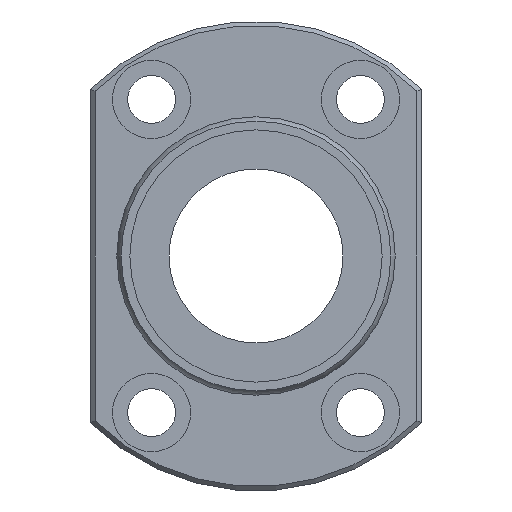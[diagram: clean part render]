
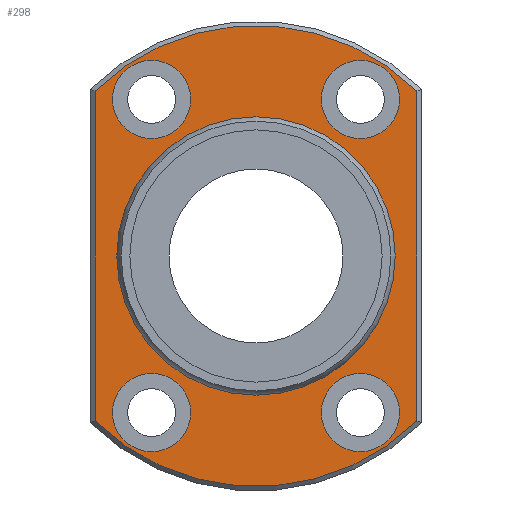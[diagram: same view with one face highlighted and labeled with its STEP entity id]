
A CAD part, left-side view. The second image highlights one B-rep face of the part: STEP entity #298.
In plain terms, the highlighted planar face has unit normal (-1, 0, 0).
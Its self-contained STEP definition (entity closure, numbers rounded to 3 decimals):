
#59=CARTESIAN_POINT('',(41.5,-18.5,18.974));
#60=VERTEX_POINT('',#59);
#68=CARTESIAN_POINT('',(41.5,-18.5,-18.974));
#69=VERTEX_POINT('',#68);
#70=CARTESIAN_POINT('',(41.5,-18.5,18.974));
#71=DIRECTION('',(0.0,0.0,-1.0));
#72=VECTOR('',#71,37.947);
#73=LINE('',#70,#72);
#74=EDGE_CURVE('',#60,#69,#73,.T.);
#101=CARTESIAN_POINT('',(41.5,18.5,-18.974));
#102=VERTEX_POINT('',#101);
#103=CARTESIAN_POINT('',(41.5,0.0,0.0));
#104=DIRECTION('',(1.0,0.0,0.0));
#105=DIRECTION('',(0.0,0.0,-1.0));
#106=AXIS2_PLACEMENT_3D('',#103,#104,#105);
#107=CIRCLE('',#106,26.5);
#108=EDGE_CURVE('',#69,#102,#107,.T.);
#134=CARTESIAN_POINT('',(41.5,18.5,18.974));
#135=VERTEX_POINT('',#134);
#136=CARTESIAN_POINT('',(41.5,18.5,-18.974));
#137=DIRECTION('',(0.0,0.0,1.0));
#138=VECTOR('',#137,37.947);
#139=LINE('',#136,#138);
#140=EDGE_CURVE('',#102,#135,#139,.T.);
#165=CARTESIAN_POINT('',(41.5,0.0,0.0));
#166=DIRECTION('',(1.0,0.0,0.0));
#167=DIRECTION('',(0.0,0.0,1.0));
#168=AXIS2_PLACEMENT_3D('',#165,#166,#167);
#169=CIRCLE('',#168,26.5);
#170=EDGE_CURVE('',#135,#60,#169,.T.);
#232=CARTESIAN_POINT('',(41.5,0.0,21.387));
#233=DIRECTION('',(-1.0,0.0,0.0));
#234=DIRECTION('',(0.0,0.0,1.0));
#235=AXIS2_PLACEMENT_3D('',#232,#233,#234);
#236=PLANE('',#235);
#237=ORIENTED_EDGE('',*,*,#74,.F.);
#238=ORIENTED_EDGE('',*,*,#170,.F.);
#239=ORIENTED_EDGE('',*,*,#140,.F.);
#240=ORIENTED_EDGE('',*,*,#108,.F.);
#241=EDGE_LOOP('',(#237,#238,#239,#240));
#242=FACE_OUTER_BOUND('',#241,.T.);
#243=CARTESIAN_POINT('',(41.5,0.0,15.773));
#244=VERTEX_POINT('',#243);
#245=CARTESIAN_POINT('',(41.5,0.0,0.0));
#246=DIRECTION('',(-1.0,0.0,0.0));
#247=DIRECTION('',(0.0,0.0,1.0));
#248=AXIS2_PLACEMENT_3D('',#245,#246,#247);
#249=CIRCLE('',#248,15.773);
#250=EDGE_CURVE('',#244,#244,#249,.T.);
#251=ORIENTED_EDGE('',*,*,#250,.F.);
#252=EDGE_LOOP('',(#251));
#253=FACE_BOUND('',#252,.T.);
#254=CARTESIAN_POINT('',(41.5,-7.5,-18.0));
#255=VERTEX_POINT('',#254);
#256=CARTESIAN_POINT('',(41.5,-12.,-18.0));
#257=DIRECTION('',(1.0,0.0,0.0));
#258=DIRECTION('',(0.0,1.0,0.0));
#259=AXIS2_PLACEMENT_3D('',#256,#257,#258);
#260=CIRCLE('',#259,4.5);
#261=EDGE_CURVE('',#255,#255,#260,.T.);
#262=ORIENTED_EDGE('',*,*,#261,.T.);
#263=EDGE_LOOP('',(#262));
#264=FACE_BOUND('',#263,.T.);
#265=CARTESIAN_POINT('',(41.5,-7.5,18.0));
#266=VERTEX_POINT('',#265);
#267=CARTESIAN_POINT('',(41.5,-12.,18.0));
#268=DIRECTION('',(1.0,0.0,0.0));
#269=DIRECTION('',(0.0,1.0,0.0));
#270=AXIS2_PLACEMENT_3D('',#267,#268,#269);
#271=CIRCLE('',#270,4.5);
#272=EDGE_CURVE('',#266,#266,#271,.T.);
#273=ORIENTED_EDGE('',*,*,#272,.T.);
#274=EDGE_LOOP('',(#273));
#275=FACE_BOUND('',#274,.T.);
#276=CARTESIAN_POINT('',(41.5,16.5,-18.0));
#277=VERTEX_POINT('',#276);
#278=CARTESIAN_POINT('',(41.5,12.,-18.0));
#279=DIRECTION('',(1.0,0.0,0.0));
#280=DIRECTION('',(0.0,1.0,0.0));
#281=AXIS2_PLACEMENT_3D('',#278,#279,#280);
#282=CIRCLE('',#281,4.5);
#283=EDGE_CURVE('',#277,#277,#282,.T.);
#284=ORIENTED_EDGE('',*,*,#283,.T.);
#285=EDGE_LOOP('',(#284));
#286=FACE_BOUND('',#285,.T.);
#287=CARTESIAN_POINT('',(41.5,16.5,18.0));
#288=VERTEX_POINT('',#287);
#289=CARTESIAN_POINT('',(41.5,12.,18.0));
#290=DIRECTION('',(1.0,0.0,0.0));
#291=DIRECTION('',(0.0,1.0,0.0));
#292=AXIS2_PLACEMENT_3D('',#289,#290,#291);
#293=CIRCLE('',#292,4.5);
#294=EDGE_CURVE('',#288,#288,#293,.T.);
#295=ORIENTED_EDGE('',*,*,#294,.T.);
#296=EDGE_LOOP('',(#295));
#297=FACE_BOUND('',#296,.T.);
#298=ADVANCED_FACE('',(#242,#253,#264,#275,#286,#297),#236,.T.);
